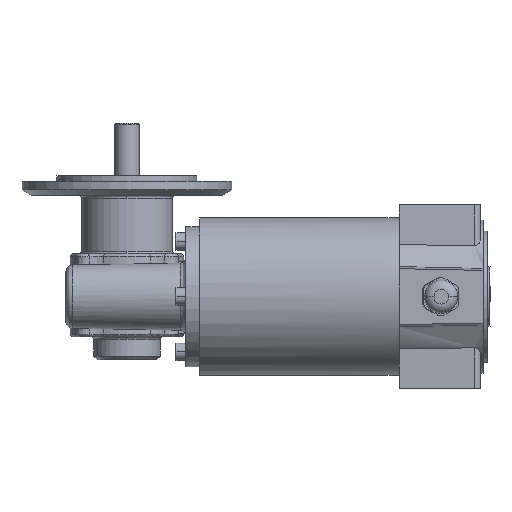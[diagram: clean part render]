
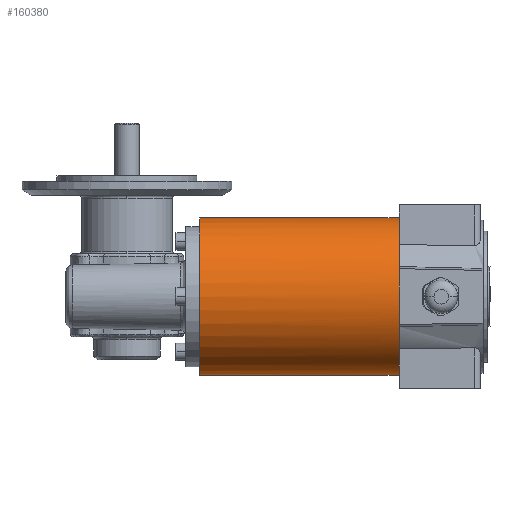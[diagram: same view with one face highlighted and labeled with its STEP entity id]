
A CAD part, front view. The second image highlights one B-rep face of the part: STEP entity #160380.
In plain terms, the highlighted cylindrical face has radius 45 mm (diameter 90 mm), a partial arc.
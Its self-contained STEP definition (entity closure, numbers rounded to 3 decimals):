
#21200=CARTESIAN_POINT('',(-64.,458.874,
-134.584));
#21210=DIRECTION('',(0.,1.,
-0.026));
#21220=DIRECTION('',(1.,0.,0.));
#21230=AXIS2_PLACEMENT_3D('',#21200,#21210,#21220);
#21240=CIRCLE('',#21230,45.);
#21250=CARTESIAN_POINT('',(-19.,458.874,
-134.584));
#21260=VERTEX_POINT('',#21250);
#21270=CARTESIAN_POINT('',(-109.,458.874,
-134.584));
#21280=VERTEX_POINT('',#21270);
#21290=EDGE_CURVE('',#21260,#21280,#21240,.T.);
#21360=CARTESIAN_POINT('',(-64.,458.874,
-134.584));
#21370=DIRECTION('',(0.,1.,
-0.026));
#21380=DIRECTION('',(1.,0.,0.));
#21390=AXIS2_PLACEMENT_3D('',#21360,#21370,#21380);
#21400=CYLINDRICAL_SURFACE('',#21390,45.);
#21410=CARTESIAN_POINT('',(-109.,458.874,
-134.584));
#21420=DIRECTION('',(0.,1.,
-0.026));
#21430=VECTOR('',#21420,1.);
#21440=LINE('',#21410,#21430);
#21450=CARTESIAN_POINT('',(-109.,572.835,
-137.568));
#21460=VERTEX_POINT('',#21450);
#21470=EDGE_CURVE('',#21280,#21460,#21440,.T.);
#21490=CARTESIAN_POINT('',(-64.,572.835,
-137.568));
#21500=DIRECTION('',(0.,1.,
-0.026));
#21510=DIRECTION('',(1.,0.,0.));
#21520=AXIS2_PLACEMENT_3D('',#21490,#21500,#21510);
#21530=CIRCLE('',#21520,45.);
#21540=CARTESIAN_POINT('',(-19.,572.835,
-137.568));
#21550=VERTEX_POINT('',#21540);
#21580=CARTESIAN_POINT('',(-19.,458.874,
-134.584));
#21590=DIRECTION('',(0.,1.,
-0.026));
#21600=VECTOR('',#21590,1.);
#21610=LINE('',#21580,#21600);
#21620=EDGE_CURVE('',#21260,#21550,#21610,.T.);
#21730=EDGE_CURVE('',#21550,#21460,#21530,.T.);
#160320=ORIENTED_EDGE('',*,*,#21290,.T.);
#160330=ORIENTED_EDGE('',*,*,#21620,.F.);
#160340=ORIENTED_EDGE('',*,*,#21730,.F.);
#160350=ORIENTED_EDGE('',*,*,#21470,.T.);
#160360=EDGE_LOOP('',(#160350,#160340,#160330,#160320));
#160370=FACE_OUTER_BOUND('',#160360,.T.);
#160380=ADVANCED_FACE('',(#160370),#21400,.T.);
